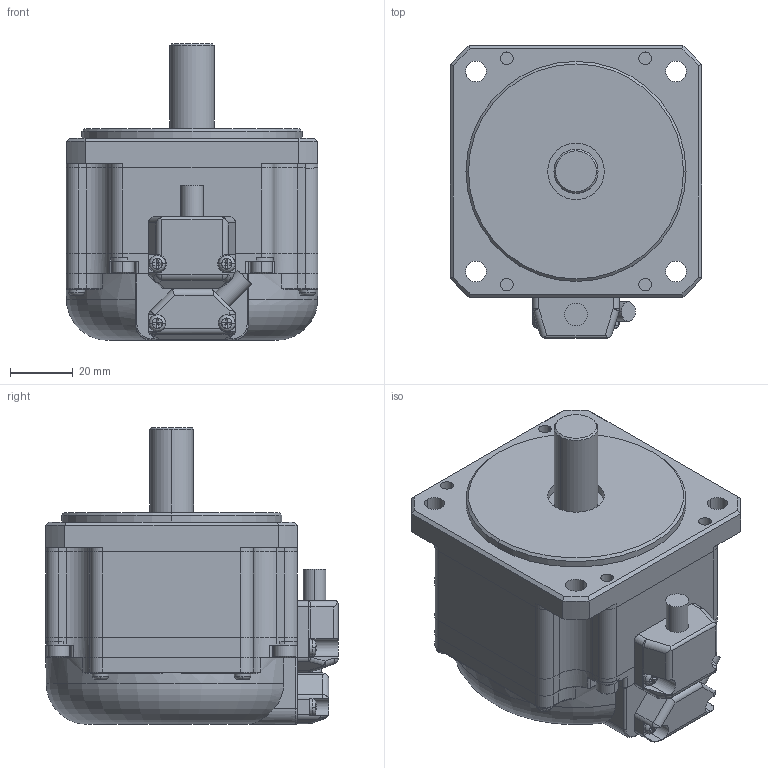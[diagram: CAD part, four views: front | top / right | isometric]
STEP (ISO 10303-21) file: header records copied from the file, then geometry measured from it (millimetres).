
FILE_DESCRIPTION(('Creo Elements/Direct Modeling STEP Export'),'2;1');
FILE_NAME('TS4611_BK無.stp','2016-12-22T16:45:27',(''),(''),'Creo Elements/Direct Modeling STEP processor for AP214 (Solid Model)','Creo Elements/Direct Modeling 17.0F 20-Aug-2012 (C) Parametric Technology GmbH','');
FILE_SCHEMA(('AUTOMOTIVE_DESIGN { 1 0 10303 214 1 1 1 1 }'));
Length unit declared in the file: millimetre
Products named in the file (2): TS4611N1000
Assembly tree (1 placements, depth 2):
  TS4611N1000
    TS4611N1000
Bounding box: 80 x 93 x 94.3 mm (x, y, z)
Volume: 374723.2 mm3; surface area: 35590.4 mm2
Topology: 1 solids, 1 shells, 667 faces, 1586 edges, 925 vertices
Faces by surface type: plane 335, cylinder 227, cone 40, sphere 28, torus 27, bspline 10
Entity records: 19663 total; most frequent: CARTESIAN_POINT 4841, ORIENTED_EDGE 3134, DIRECTION 3103, EDGE_CURVE 1567, AXIS2_PLACEMENT_3D 1183, VERTEX_POINT 925, VECTOR 737, LINE 737
